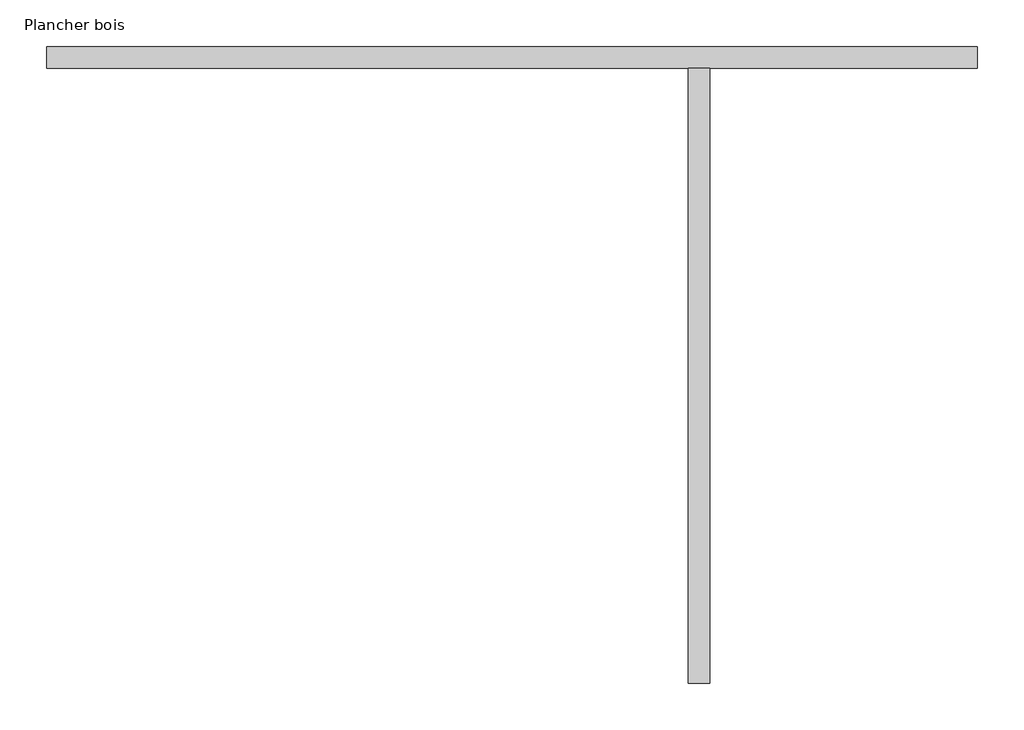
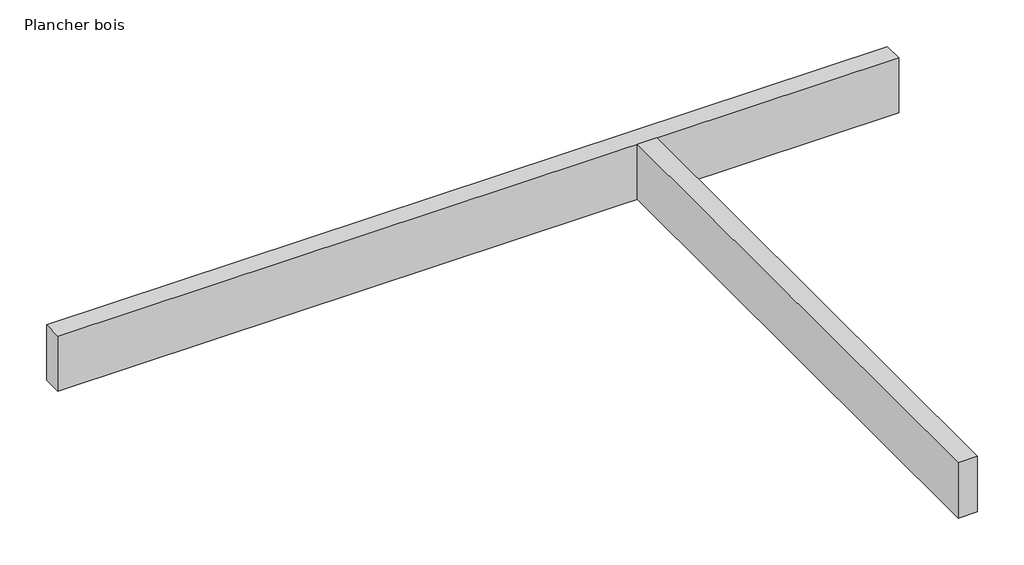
# One storey: 2 beams.
"""IFC4 building model written with IfcOpenShell, lengths in millimetres."""

from ifc_helpers import new_model, si_unit, origin, place, context, project, spatial, transform, mapped, element, save
from components import beam_75x225_1d599c9f, beam_75x225_7bc41753

model = new_model("IFC4")

# Units and contexts
model_context = context("Model", 3, world=origin())
ifc_project = project(units=[si_unit("LENGTHUNIT", "METRE", prefix="MILLI")], contexts=[model_context])

# Site, building, storey
site = spatial("IfcSite", under=ifc_project)
building = spatial("IfcBuilding", under=site)
storey = spatial("IfcBuildingStorey", under=building, Name="Plancher bois", Elevation=2720.0)

# Beams
placement = place(None, origin())
beam_75x225_shape = beam_75x225_1d599c9f(model_context)
element("IfcBeam", 1, ObjectType="Madrier : 75x225", at=placement, inside=storey, context=model_context, shape_type="MappedRepresentation", body=[
    mapped(beam_75x225_shape, transform((1609.9723938, 26481.9326555, 2607.5), x_axis=(1.0, 0.0, 0.0), y_axis=(0.0, 1.0, 0.0), z_axis=(0.0, 0.0, 1.0))),
])
beam_75x225_2_shape = beam_75x225_7bc41753(model_context)
element("IfcBeam", 2, ObjectType="Madrier : 75x225", at=placement, inside=storey, context=model_context, shape_type="MappedRepresentation", body=[
    mapped(beam_75x225_2_shape, transform((2224.9723938, 25391.9326555, 2607.5), x_axis=(0.0, -1.0, 0.0), y_axis=(1.0, 0.0, 0.0), z_axis=(0.0, 0.0, 1.0))),
])

save(model, "model.ifc")
